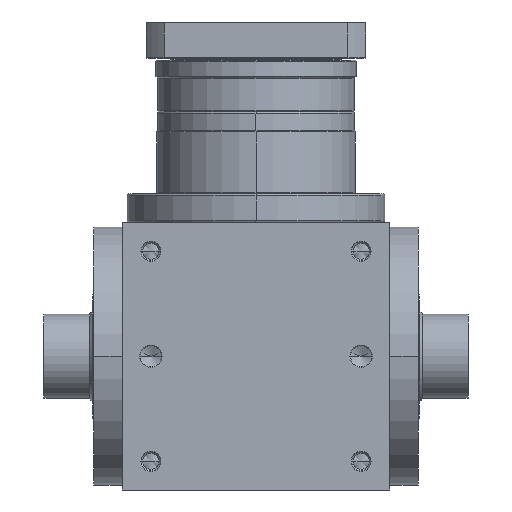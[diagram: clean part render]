
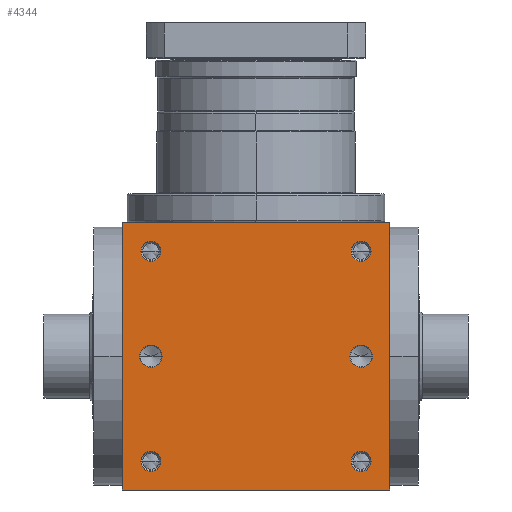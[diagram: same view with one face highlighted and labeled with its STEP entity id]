
A CAD part, front view. The second image highlights one B-rep face of the part: STEP entity #4344.
In plain terms, the highlighted planar face has unit normal (0, -1, 0).
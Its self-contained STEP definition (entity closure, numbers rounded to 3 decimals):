
#5=DIRECTION('',(1.,0.,0.));
#6=VECTOR('',#5,140.);
#7=CARTESIAN_POINT('',(-70.,-70.,-70.));
#8=LINE('',#7,#6);
#155=DIRECTION('',(0.,0.,1.));
#156=VECTOR('',#155,140.);
#157=CARTESIAN_POINT('',(70.,-70.,-70.));
#158=LINE('',#157,#156);
#209=DIRECTION('',(0.,0.,1.));
#210=VECTOR('',#209,140.);
#211=CARTESIAN_POINT('',(-70.,-70.,-70.));
#212=LINE('',#211,#210);
#213=CARTESIAN_POINT('',(55.,-70.,55.));
#214=DIRECTION('',(0.,1.,0.));
#215=DIRECTION('',(-1.,0.,0.));
#216=AXIS2_PLACEMENT_3D('',#213,#214,#215);
#218=CARTESIAN_POINT('',(55.,-70.,55.));
#219=DIRECTION('',(0.,1.,0.));
#220=DIRECTION('',(1.,0.,0.));
#221=AXIS2_PLACEMENT_3D('',#218,#219,#220);
#223=CARTESIAN_POINT('',(-55.,-70.,55.));
#224=DIRECTION('',(0.,1.,0.));
#225=DIRECTION('',(-1.,0.,0.));
#226=AXIS2_PLACEMENT_3D('',#223,#224,#225);
#228=CARTESIAN_POINT('',(-55.,-70.,55.));
#229=DIRECTION('',(0.,1.,0.));
#230=DIRECTION('',(1.,0.,0.));
#231=AXIS2_PLACEMENT_3D('',#228,#229,#230);
#233=CARTESIAN_POINT('',(55.,-70.,-55.));
#234=DIRECTION('',(0.,1.,0.));
#235=DIRECTION('',(-1.,0.,0.));
#236=AXIS2_PLACEMENT_3D('',#233,#234,#235);
#238=CARTESIAN_POINT('',(55.,-70.,-55.));
#239=DIRECTION('',(0.,1.,0.));
#240=DIRECTION('',(1.,0.,0.));
#241=AXIS2_PLACEMENT_3D('',#238,#239,#240);
#243=CARTESIAN_POINT('',(-55.,-70.,-55.));
#244=DIRECTION('',(0.,1.,0.));
#245=DIRECTION('',(-1.,0.,0.));
#246=AXIS2_PLACEMENT_3D('',#243,#244,#245);
#248=CARTESIAN_POINT('',(-55.,-70.,-55.));
#249=DIRECTION('',(0.,1.,0.));
#250=DIRECTION('',(1.,0.,0.));
#251=AXIS2_PLACEMENT_3D('',#248,#249,#250);
#253=CARTESIAN_POINT('',(-55.,-70.,0.));
#254=DIRECTION('',(0.,1.,0.));
#255=DIRECTION('',(1.,0.,0.));
#256=AXIS2_PLACEMENT_3D('',#253,#254,#255);
#258=CARTESIAN_POINT('',(-55.,-70.,0.));
#259=DIRECTION('',(0.,1.,0.));
#260=DIRECTION('',(-1.,0.,0.));
#261=AXIS2_PLACEMENT_3D('',#258,#259,#260);
#263=CARTESIAN_POINT('',(55.,-70.,0.));
#264=DIRECTION('',(0.,1.,0.));
#265=DIRECTION('',(1.,0.,0.));
#266=AXIS2_PLACEMENT_3D('',#263,#264,#265);
#268=CARTESIAN_POINT('',(55.,-70.,0.));
#269=DIRECTION('',(0.,1.,0.));
#270=DIRECTION('',(-1.,0.,0.));
#271=AXIS2_PLACEMENT_3D('',#268,#269,#270);
#285=DIRECTION('',(1.,0.,0.));
#286=VECTOR('',#285,140.);
#287=CARTESIAN_POINT('',(-70.,-70.,70.));
#288=LINE('',#287,#286);
#3502=CARTESIAN_POINT('',(-70.,-70.,-70.));
#3504=VERTEX_POINT('',#3502);
#3505=CARTESIAN_POINT('',(70.,-70.,-70.));
#3506=VERTEX_POINT('',#3505);
#3510=CARTESIAN_POINT('',(-70.,-70.,70.));
#3512=VERTEX_POINT('',#3510);
#3513=CARTESIAN_POINT('',(70.,-70.,70.));
#3514=VERTEX_POINT('',#3513);
#3669=CARTESIAN_POINT('',(49.75,-70.,55.));
#3670=CARTESIAN_POINT('',(60.25,-70.,55.));
#3671=VERTEX_POINT('',#3669);
#3672=VERTEX_POINT('',#3670);
#3677=CARTESIAN_POINT('',(-60.25,-70.,55.));
#3678=CARTESIAN_POINT('',(-49.75,-70.,55.));
#3679=VERTEX_POINT('',#3677);
#3680=VERTEX_POINT('',#3678);
#3685=CARTESIAN_POINT('',(49.75,-70.,-55.));
#3686=CARTESIAN_POINT('',(60.25,-70.,-55.));
#3687=VERTEX_POINT('',#3685);
#3688=VERTEX_POINT('',#3686);
#3693=CARTESIAN_POINT('',(-60.25,-70.,-55.));
#3694=CARTESIAN_POINT('',(-49.75,-70.,-55.));
#3695=VERTEX_POINT('',#3693);
#3696=VERTEX_POINT('',#3694);
#4017=CARTESIAN_POINT('',(-49.15,-70.,
0.));
#4018=CARTESIAN_POINT('',(-60.85,-70.,
0.));
#4019=VERTEX_POINT('',#4017);
#4020=VERTEX_POINT('',#4018);
#4025=CARTESIAN_POINT('',(60.85,-70.,0.));
#4026=CARTESIAN_POINT('',(49.15,-70.,0.));
#4027=VERTEX_POINT('',#4025);
#4028=VERTEX_POINT('',#4026);
#4296=CARTESIAN_POINT('',(-70.,-70.,-70.));
#4297=DIRECTION('',(0.,-1.,0.));
#4298=DIRECTION('',(1.,0.,0.));
#4299=AXIS2_PLACEMENT_3D('',#4296,#4297,#4298);
#4300=PLANE('',#4299);
#4301=ORIENTED_EDGE('',*,*,#4136,.F.);
#4302=ORIENTED_EDGE('',*,*,#4179,.T.);
#4304=ORIENTED_EDGE('',*,*,#4303,.T.);
#4305=ORIENTED_EDGE('',*,*,#4258,.F.);
#4306=EDGE_LOOP('',(#4301,#4302,#4304,#4305));
#4307=FACE_OUTER_BOUND('',#4306,.F.);
#4309=ORIENTED_EDGE('',*,*,#4308,.F.);
#4311=ORIENTED_EDGE('',*,*,#4310,.F.);
#4312=EDGE_LOOP('',(#4309,#4311));
#4313=FACE_BOUND('',#4312,.F.);
#4315=ORIENTED_EDGE('',*,*,#4314,.F.);
#4317=ORIENTED_EDGE('',*,*,#4316,.F.);
#4318=EDGE_LOOP('',(#4315,#4317));
#4319=FACE_BOUND('',#4318,.F.);
#4321=ORIENTED_EDGE('',*,*,#4320,.F.);
#4323=ORIENTED_EDGE('',*,*,#4322,.F.);
#4324=EDGE_LOOP('',(#4321,#4323));
#4325=FACE_BOUND('',#4324,.F.);
#4327=ORIENTED_EDGE('',*,*,#4326,.F.);
#4329=ORIENTED_EDGE('',*,*,#4328,.F.);
#4330=EDGE_LOOP('',(#4327,#4329));
#4331=FACE_BOUND('',#4330,.F.);
#4333=ORIENTED_EDGE('',*,*,#4332,.F.);
#4335=ORIENTED_EDGE('',*,*,#4334,.F.);
#4336=EDGE_LOOP('',(#4333,#4335));
#4337=FACE_BOUND('',#4336,.F.);
#4339=ORIENTED_EDGE('',*,*,#4338,.F.);
#4341=ORIENTED_EDGE('',*,*,#4340,.F.);
#4342=EDGE_LOOP('',(#4339,#4341));
#4343=FACE_BOUND('',#4342,.F.);
#4344=ADVANCED_FACE('',(#4307,#4313,#4319,#4325,#4331,#4337,#4343),#4300,.T.);
#217=CIRCLE('',#216,5.25);
#222=CIRCLE('',#221,5.25);
#227=CIRCLE('',#226,5.25);
#232=CIRCLE('',#231,5.25);
#237=CIRCLE('',#236,5.25);
#242=CIRCLE('',#241,5.25);
#247=CIRCLE('',#246,5.25);
#252=CIRCLE('',#251,5.25);
#257=CIRCLE('',#256,5.85);
#262=CIRCLE('',#261,5.85);
#267=CIRCLE('',#266,5.85);
#272=CIRCLE('',#271,5.85);
#4136=EDGE_CURVE('',#3504,#3506,#8,.T.);
#4179=EDGE_CURVE('',#3504,#3512,#212,.T.);
#4258=EDGE_CURVE('',#3506,#3514,#158,.T.);
#4303=EDGE_CURVE('',#3512,#3514,#288,.T.);
#4308=EDGE_CURVE('',#3671,#3672,#217,.T.);
#4310=EDGE_CURVE('',#3672,#3671,#222,.T.);
#4314=EDGE_CURVE('',#3679,#3680,#227,.T.);
#4316=EDGE_CURVE('',#3680,#3679,#232,.T.);
#4320=EDGE_CURVE('',#3687,#3688,#237,.T.);
#4322=EDGE_CURVE('',#3688,#3687,#242,.T.);
#4326=EDGE_CURVE('',#3695,#3696,#247,.T.);
#4328=EDGE_CURVE('',#3696,#3695,#252,.T.);
#4332=EDGE_CURVE('',#4019,#4020,#257,.T.);
#4334=EDGE_CURVE('',#4020,#4019,#262,.T.);
#4338=EDGE_CURVE('',#4027,#4028,#267,.T.);
#4340=EDGE_CURVE('',#4028,#4027,#272,.T.);
